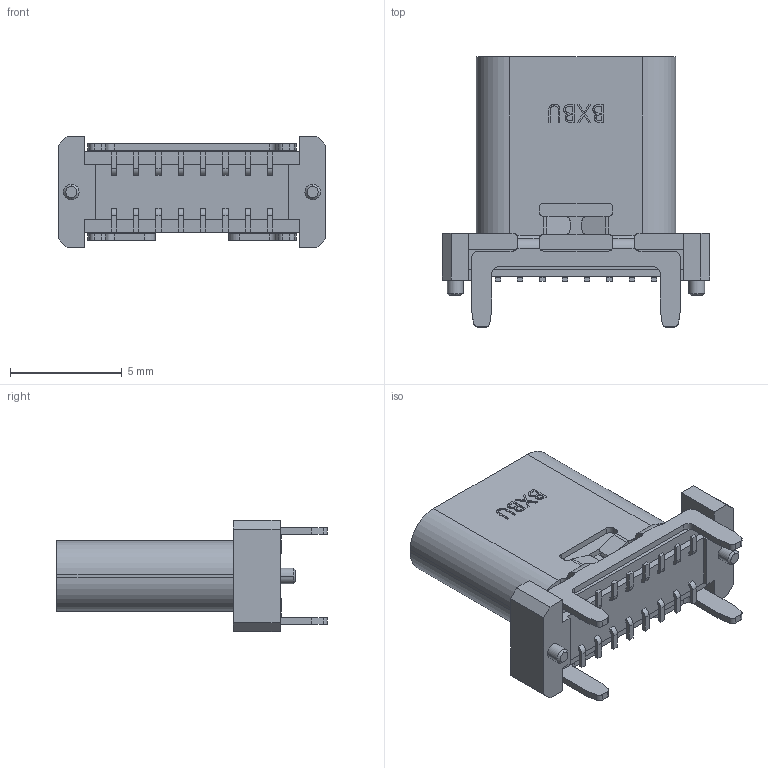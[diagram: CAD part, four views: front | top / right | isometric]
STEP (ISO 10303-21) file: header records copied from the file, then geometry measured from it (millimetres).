
FILE_DESCRIPTION (( 'STEP AP203' ), '1' );
FILE_NAME ('U5236-16PN10.0L.STEP', '2026-09-22T01:44:06', ( '' ), ( '' ), 'SwSTEP 2.0', 'SolidWorks 2024', '' );
FILE_SCHEMA (( 'CONFIG_CONTROL_DESIGN' ));
Length unit declared in the file: millimetre
Products named in the file (1): U5236-16PN10.0L
Bounding box: 12 x 12.1 x 5 mm (x, y, z)
Volume: 221.9 mm3; surface area: 714.5 mm2
Topology: 2 solids, 2 shells, 569 faces, 1586 edges, 1052 vertices
Faces by surface type: plane 378, cylinder 154, bspline 25, cone 12
Entity records: 19731 total; most frequent: CARTESIAN_POINT 4967, ORIENTED_EDGE 3172, DIRECTION 2912, EDGE_CURVE 1586, VECTOR 1166, LINE 1166, VERTEX_POINT 1052, AXIS2_PLACEMENT_3D 873
